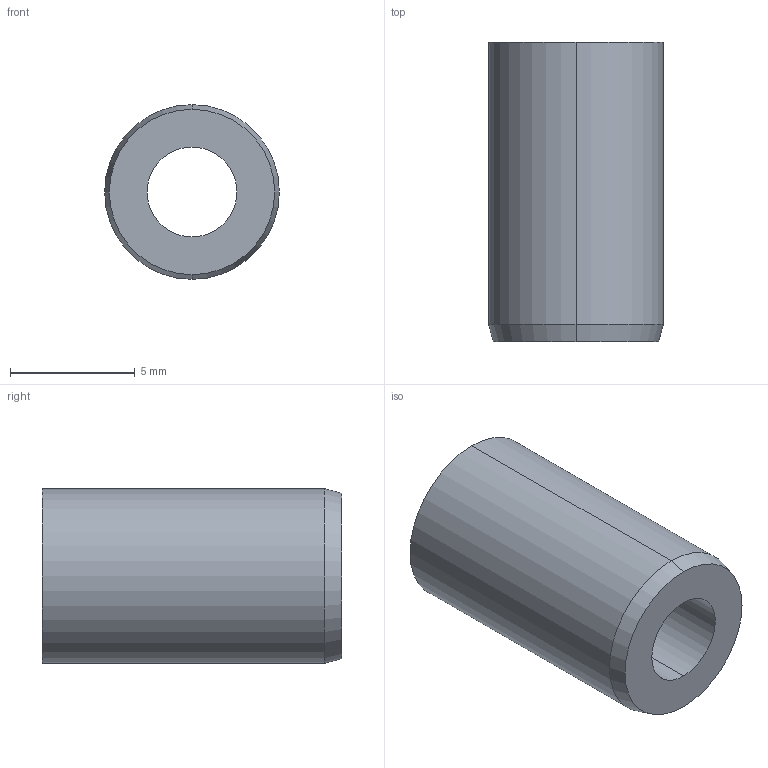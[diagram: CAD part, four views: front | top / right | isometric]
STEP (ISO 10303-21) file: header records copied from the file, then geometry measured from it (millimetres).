
FILE_DESCRIPTION (( 'STEP AP214' ), '1' );
FILE_NAME ('179-B3,6-12-A.step', '2024-10-17T05:56:09', ( '' ), ( '' ), 'SwSTEP 2.0', 'SolidWorks 2022', '' );
FILE_SCHEMA (( 'AUTOMOTIVE_DESIGN' ));
Length unit declared in the file: millimetre
Products named in the file (1): 179-B3,6-12-A
Bounding box: 7 x 12 x 7 mm (x, y, z)
Volume: 338.2 mm3; surface area: 451.5 mm2
Topology: 1 solids, 1 shells, 10 faces, 20 edges, 12 vertices
Faces by surface type: cylinder 4, cone 2, torus 2, plane 2
Entity records: 414 total; most frequent: DIRECTION 56, CARTESIAN_POINT 43, ORIENTED_EDGE 40, AXIS2_PLACEMENT_3D 25, EDGE_CURVE 20, CIRCLE 14, UNCERTAINTY_MEASURE_WITH_UNIT 13, COLOUR_RGB 12
